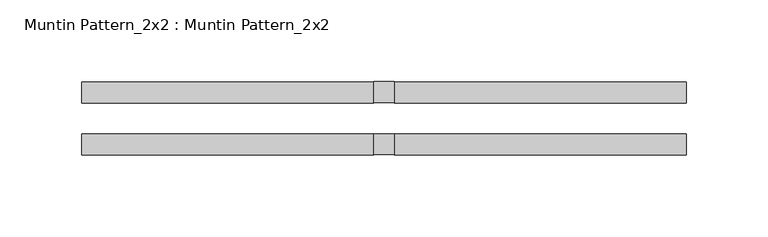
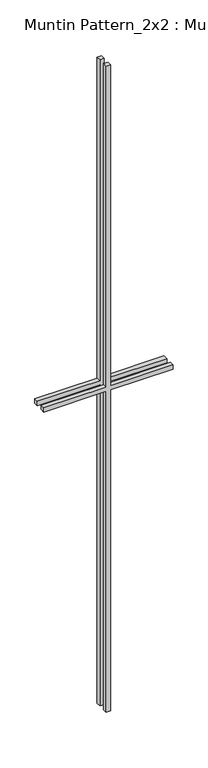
"""IFC4 building model written with IfcOpenShell, lengths in millimetres: proxy geometry, Muntin Pattern_2x2 : Muntin Pattern_2x2."""

from ifc_helpers import new_model, si_unit, frame, origin, place, context, project, spatial, polyline, outline, extrude, source, transform, mapped, element, save


def muntin_pattern_2x2_muntin_pattern_2x2_74ecfb93(model_context):
    return source(origin(), model_context, "Body", "SweptSolid", [
        extrude(outline(polyline([(977.9, -6.35), (977.9, -184.15), (965.2, -184.15), (965.2, -6.35), (0.0, -6.35), (0.0, 6.35), (965.2, 6.35), (965.2, 184.15), (977.9, 184.15), (977.9, 6.35), (1943.1, 6.35), (1943.1, -6.35), (977.9, -6.35)])), frame((0.0, 9.525, 0.0), z_axis=(0.0, 1.0, 0.0), x_axis=(0.0, 0.0, 1.0)), (0.0, 0.0, 1.0), 12.7),
        extrude(outline(polyline([(977.9, -6.35), (977.9, -184.15), (965.2, -184.15), (965.2, -6.35), (0.0, -6.35), (0.0, 6.35), (965.2, 6.35), (965.2, 184.15), (977.9, 184.15), (977.9, 6.35), (1943.1, 6.35), (1943.1, -6.35), (977.9, -6.35)])), frame((0.0, -22.225, 0.0), z_axis=(0.0, 1.0, 0.0), x_axis=(0.0, 0.0, 1.0)), (0.0, 0.0, 1.0), 12.7),
    ])


if __name__ == "__main__":
    model = new_model("IFC4")
    model_context = context("Model", 3, world=origin())
    ifc_project = project(units=[si_unit("LENGTHUNIT", "METRE", prefix="MILLI")], contexts=[model_context])
    site = spatial("IfcSite", under=ifc_project)
    building = spatial("IfcBuilding", under=site)
    placement = place(None, origin())
    muntin_pattern_2x2_muntin_pattern_2x2_shape = muntin_pattern_2x2_muntin_pattern_2x2_74ecfb93(model_context)
    element("IfcBuildingElementProxy", 1, Name="Muntin Pattern_2x2 : Muntin Pattern_2x2", ObjectType="Muntin Pattern_2x2 : Muntin Pattern_2x2", at=placement, inside=building, context=model_context, shape_type="MappedRepresentation", body=[
        mapped(muntin_pattern_2x2_muntin_pattern_2x2_shape, transform((0.0, 0.0, 0.0), x_axis=(1.0, 0.0, 0.0), y_axis=(0.0, 1.0, 0.0), z_axis=(0.0, 0.0, 1.0))),
    ])
    save(model, "model.ifc")
